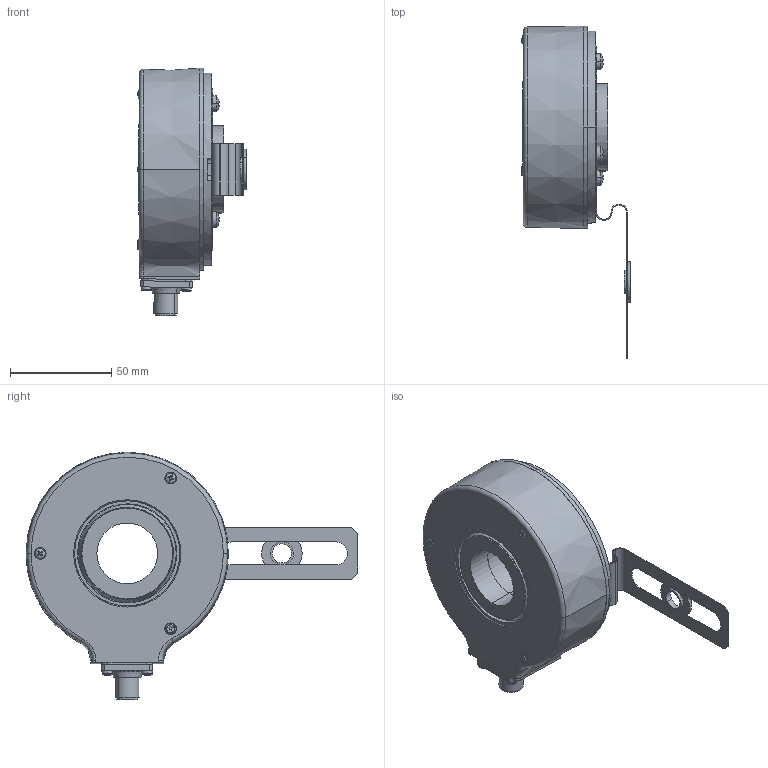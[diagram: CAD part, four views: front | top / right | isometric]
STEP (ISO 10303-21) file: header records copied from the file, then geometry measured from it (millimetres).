
FILE_DESCRIPTION (( 'STEP AP214' ), '1' );
FILE_NAME ('8.A020.5AXE.XXXX.STEP', '2014-11-12T11:56:06', ( 'LauferA' ), ( 'Microsoft' ), 'SwSTEP 2.0', 'SolidWorks 2013', '' );
FILE_SCHEMA (( 'AUTOMOTIVE_DESIGN' ));
Length unit declared in the file: millimetre
Products named in the file (1): 8.A020.5AXE.XXXX
Bounding box: 53.6 x 164 x 122.32 mm (x, y, z)
Volume: 175662.9 mm3; surface area: 107611.3 mm2
Topology: 25 solids, 25 shells, 992 faces, 2668 edges, 1657 vertices
Faces by surface type: plane 325, cylinder 317, cone 146, sphere 130, torus 62, bspline 12
Entity records: 44991 total; most frequent: CARTESIAN_POINT 10076, DIRECTION 5177, ORIENTED_EDGE 4724, EDGE_CURVE 2362, AXIS2_PLACEMENT_3D 2118, VERTEX_POINT 1497, EDGE_LOOP 1253, CIRCLE 1137
